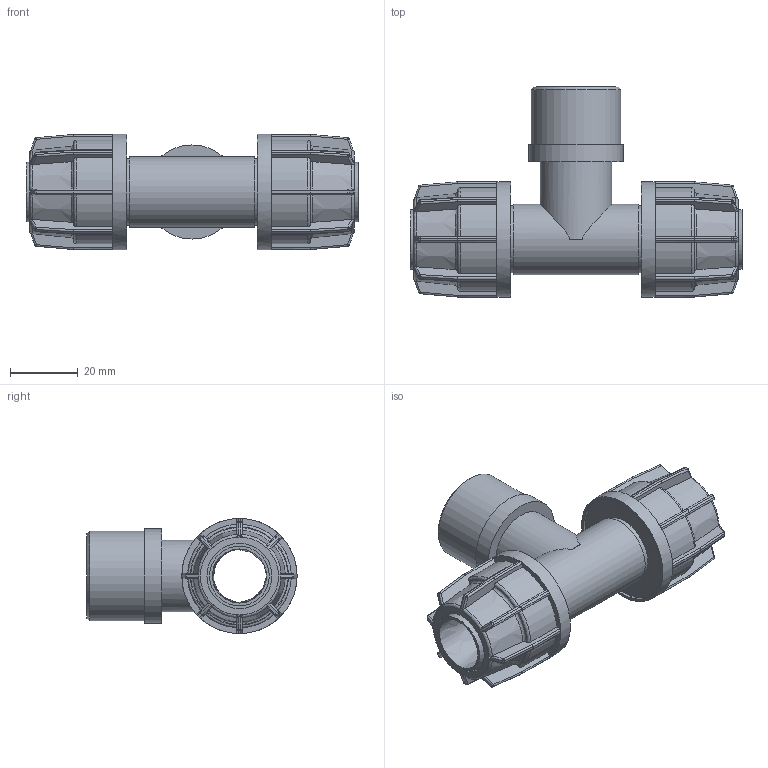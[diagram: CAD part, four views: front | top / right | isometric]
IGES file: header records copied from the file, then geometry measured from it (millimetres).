
Global section: file name: 048407016007.ipt; native system: Autodesk Inventor 2015; preprocessor: unknown; author: KIM; date: 20180409.130658; units: millimetre
Bounding box: 98 x 62 x 34 mm (x, y, z)
Volume: 39560.2 mm3; surface area: 22583.7 mm2
Topology: 1 solids, 1 shells, 534 faces, 1279 edges, 740 vertices
Faces by surface type: plane 258, cylinder 154, sphere 64, revolution 41, cone 17
Full cylindrical faces by diameter (mm): 17.6 x2, 19.76 x2, 20.8 x1, 21.153 x1, 26.441 x1, 27.763 x1, 34 x2
